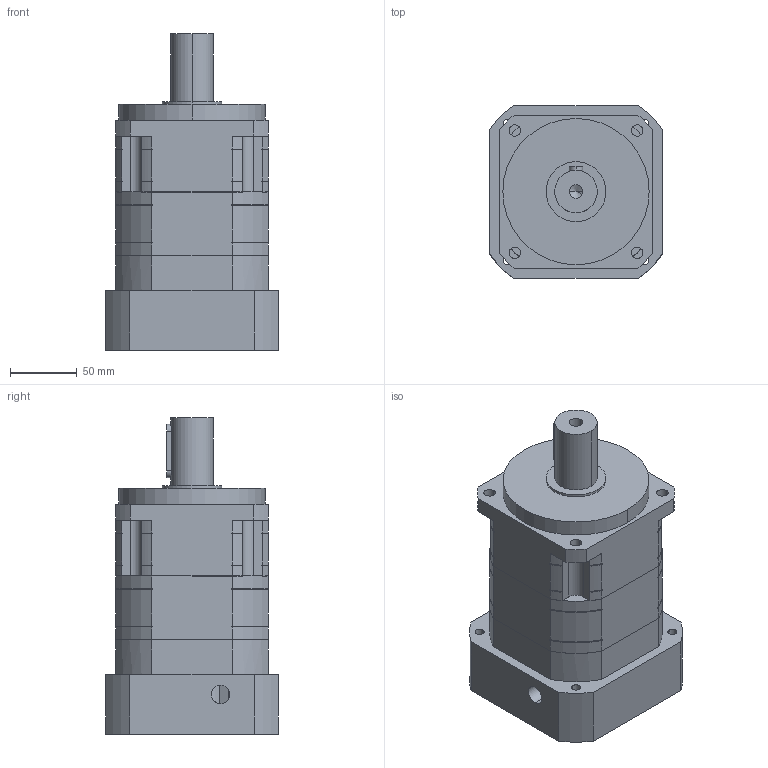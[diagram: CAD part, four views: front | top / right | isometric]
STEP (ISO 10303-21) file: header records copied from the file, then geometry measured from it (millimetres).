
FILE_DESCRIPTION (( 'STEP AP203' ), '1' );
FILE_NAME ('SG115L2.STEP', '2017-06-05T08:11:30', ( 'user1' ), ( '' ), 'SwSTEP 2.0', 'SolidWorks 2012', '' );
FILE_SCHEMA (( 'CONFIG_CONTROL_DESIGN' ));
Length unit declared in the file: millimetre
Products named in the file (6): SG115L2; 複製 of 複製 of 複製 of 222^SG115L2; 複製 of 複製 of 222^SG115L2; 零件3^PG115L1_1; 零件2^PG115L1_1; 零件1^PG115L1_1
Assembly tree (5 placements, depth 2):
  SG115L2
    零件1^PG115L1_1
    零件2^PG115L1_1
    零件3^PG115L1_1
    複製 of 複製 of 222^SG115L2
    複製 of 複製 of 複製 of 222^SG115L2
Bounding box: 130 x 130 x 238 mm (x, y, z)
Volume: 2184464.6 mm3; surface area: 226411.3 mm2
Topology: 5 solids, 5 shells, 285 faces, 791 edges, 526 vertices
Faces by surface type: cylinder 164, plane 116, cone 5
Entity records: 10911 total; most frequent: CARTESIAN_POINT 2712, DIRECTION 1628, ORIENTED_EDGE 1578, EDGE_CURVE 789, AXIS2_PLACEMENT_3D 595, VERTEX_POINT 526, VECTOR 438, LINE 438
